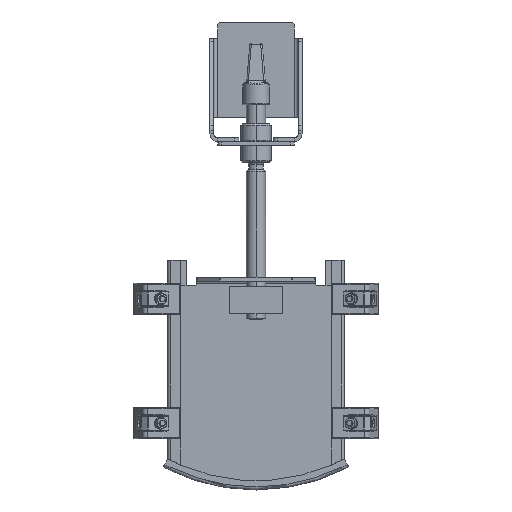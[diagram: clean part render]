
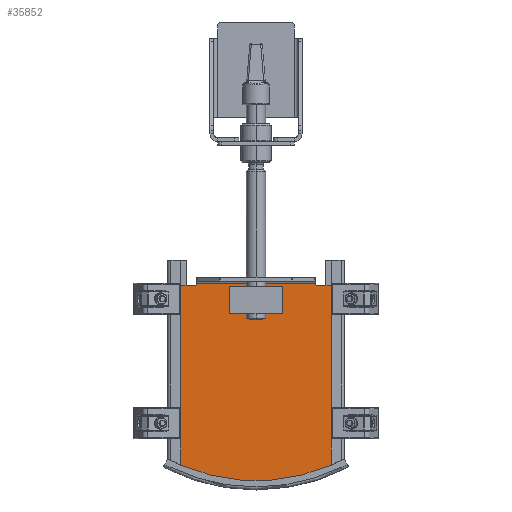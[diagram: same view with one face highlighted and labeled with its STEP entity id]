
A CAD part, top view. The second image highlights one B-rep face of the part: STEP entity #35852.
In plain terms, the highlighted planar face has unit normal (0, 0, 1).
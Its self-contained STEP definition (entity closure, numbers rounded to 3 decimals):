
#29 = DIRECTION ( 'NONE',  ( 0., -1., 0. ) ) ;
#220 = EDGE_CURVE ( 'NONE', #19083, #7626, #18681, .T. ) ;
#552 = CARTESIAN_POINT ( 'NONE',  ( 79., 255., 33. ) ) ;
#604 = VERTEX_POINT ( 'NONE', #5390 ) ;
#1266 = VECTOR ( 'NONE', #29, 1000. ) ;
#1836 = DIRECTION ( 'NONE',  ( 1., 0., 0. ) ) ;
#2104 = EDGE_CURVE ( 'NONE', #2918, #604, #26310, .T. ) ;
#2274 = CARTESIAN_POINT ( 'NONE',  ( -97.995, -12.001, 33. ) ) ;
#2918 = VERTEX_POINT ( 'NONE', #21750 ) ;
#3232 = ORIENTED_EDGE ( 'NONE', *, *, #220, .F. ) ;
#3479 = CARTESIAN_POINT ( 'NONE',  ( 79., 257., 33. ) ) ;
#3551 = VERTEX_POINT ( 'NONE', #32501 ) ;
#3735 = DIRECTION ( 'NONE',  ( 1., 0., 0. ) ) ;
#3928 = VECTOR ( 'NONE', #7741, 1000. ) ;
#4327 = FACE_BOUND ( 'NONE', #25059, .T. ) ;
#4541 = AXIS2_PLACEMENT_3D ( 'NONE', #18458, #6956, #29360 ) ;
#5390 = CARTESIAN_POINT ( 'NONE',  ( 77., 257., 33. ) ) ;
#5729 = CARTESIAN_POINT ( 'NONE',  ( -98.172, 255., 33. ) ) ;
#6323 = DIRECTION ( 'NONE',  ( 0., 0., -1. ) ) ;
#6471 = ORIENTED_EDGE ( 'NONE', *, *, #34491, .F. ) ;
#6956 = DIRECTION ( 'NONE',  ( 0., 0., 1. ) ) ;
#7518 = AXIS2_PLACEMENT_3D ( 'NONE', #19502, #16916, #8205 ) ;
#7626 = VERTEX_POINT ( 'NONE', #12492 ) ;
#7741 = DIRECTION ( 'NONE',  ( -1., 0., 0. ) ) ;
#7833 = AXIS2_PLACEMENT_3D ( 'NONE', #14870, #6323, #9715 ) ;
#7932 = VERTEX_POINT ( 'NONE', #20791 ) ;
#8205 = DIRECTION ( 'NONE',  ( 1., 0., 0. ) ) ;
#8321 = DIRECTION ( 'NONE',  ( 0., 0., -1. ) ) ;
#8735 = ORIENTED_EDGE ( 'NONE', *, *, #11793, .T. ) ;
#9321 = EDGE_CURVE ( 'NONE', #7626, #27977, #15348, .T. ) ;
#9715 = DIRECTION ( 'NONE',  ( 1., 0., 0. ) ) ;
#9811 = EDGE_LOOP ( 'NONE', ( #6471, #21044, #8735, #13893, #30688, #31223, #33234, #10053 ) ) ;
#10046 = CARTESIAN_POINT ( 'NONE',  ( -105., 257., 33. ) ) ;
#10053 = ORIENTED_EDGE ( 'NONE', *, *, #16762, .T. ) ;
#10151 = CARTESIAN_POINT ( 'NONE',  ( 97.995, 25.856, 33. ) ) ;
#10877 = EDGE_CURVE ( 'NONE', #25861, #18203, #34221, .T. ) ;
#11504 = LINE ( 'NONE', #2274, #1266 ) ;
#11761 = CARTESIAN_POINT ( 'NONE',  ( 97.995, 20.452, 33. ) ) ;
#11793 = EDGE_CURVE ( 'NONE', #24504, #604, #30264, .T. ) ;
#12395 = LINE ( 'NONE', #26644, #17013 ) ;
#12492 = CARTESIAN_POINT ( 'NONE',  ( -34., 217.5, 33. ) ) ;
#12534 = AXIS2_PLACEMENT_3D ( 'NONE', #3479, #8321, #14236 ) ;
#12834 = FACE_OUTER_BOUND ( 'NONE', #9811, .T. ) ;
#13208 = PLANE ( 'NONE',  #7518 ) ;
#13893 = ORIENTED_EDGE ( 'NONE', *, *, #2104, .F. ) ;
#14236 = DIRECTION ( 'NONE',  ( 1., 0., 0. ) ) ;
#14870 = CARTESIAN_POINT ( 'NONE',  ( -79., 257., 33. ) ) ;
#14985 = VECTOR ( 'NONE', #31274, 1000. ) ;
#15348 = LINE ( 'NONE', #24209, #19037 ) ;
#15896 = CARTESIAN_POINT ( 'NONE',  ( -34., 252.5, 33. ) ) ;
#15931 = CARTESIAN_POINT ( 'NONE',  ( 34., 252.5, 33. ) ) ;
#16547 = EDGE_CURVE ( 'NONE', #32095, #24504, #35451, .T. ) ;
#16762 = EDGE_CURVE ( 'NONE', #7932, #32059, #35230, .T. ) ;
#16916 = DIRECTION ( 'NONE',  ( 0., 0., 1. ) ) ;
#17013 = VECTOR ( 'NONE', #17613, 1000. ) ;
#17613 = DIRECTION ( 'NONE',  ( -1., 0., 0. ) ) ;
#18203 = VERTEX_POINT ( 'NONE', #36203 ) ;
#18360 = ORIENTED_EDGE ( 'NONE', *, *, #25163, .F. ) ;
#18458 = CARTESIAN_POINT ( 'NONE',  ( 0., 245., 33. ) ) ;
#18681 = LINE ( 'NONE', #15896, #31676 ) ;
#18979 = VECTOR ( 'NONE', #3735, 1000. ) ;
#19037 = VECTOR ( 'NONE', #1836, 1000. ) ;
#19083 = VERTEX_POINT ( 'NONE', #26591 ) ;
#19502 = CARTESIAN_POINT ( 'NONE',  ( -105., 25.856, 33. ) ) ;
#20791 = CARTESIAN_POINT ( 'NONE',  ( -97.995, 20.452, 33. ) ) ;
#21022 = CARTESIAN_POINT ( 'NONE',  ( 97.995, 255., 33. ) ) ;
#21044 = ORIENTED_EDGE ( 'NONE', *, *, #16547, .T. ) ;
#21750 = CARTESIAN_POINT ( 'NONE',  ( -77., 257., 33. ) ) ;
#21805 = CARTESIAN_POINT ( 'NONE',  ( 98.172, 255., 33. ) ) ;
#21943 = EDGE_CURVE ( 'NONE', #27977, #3551, #33304, .T. ) ;
#22254 = CARTESIAN_POINT ( 'NONE',  ( -79., 255., 33. ) ) ;
#22670 = EDGE_CURVE ( 'NONE', #2918, #25861, #25000, .T. ) ;
#24036 = DIRECTION ( 'NONE',  ( 0., -1., 0. ) ) ;
#24185 = LINE ( 'NONE', #10151, #30519 ) ;
#24209 = CARTESIAN_POINT ( 'NONE',  ( -34., 217.5, 33. ) ) ;
#24504 = VERTEX_POINT ( 'NONE', #552 ) ;
#25000 = CIRCLE ( 'NONE', #7833, 2. ) ;
#25059 = EDGE_LOOP ( 'NONE', ( #3232, #18360, #26656, #25627 ) ) ;
#25163 = EDGE_CURVE ( 'NONE', #3551, #19083, #12395, .T. ) ;
#25627 = ORIENTED_EDGE ( 'NONE', *, *, #9321, .F. ) ;
#25838 = CARTESIAN_POINT ( 'NONE',  ( 34., 217.5, 33. ) ) ;
#25861 = VERTEX_POINT ( 'NONE', #22254 ) ;
#26310 = LINE ( 'NONE', #10046, #18979 ) ;
#26591 = CARTESIAN_POINT ( 'NONE',  ( -34., 252.5, 33. ) ) ;
#26644 = CARTESIAN_POINT ( 'NONE',  ( -34., 252.5, 33. ) ) ;
#26656 = ORIENTED_EDGE ( 'NONE', *, *, #21943, .F. ) ;
#27182 = DIRECTION ( 'NONE',  ( 0., 1., 0. ) ) ;
#27760 = EDGE_CURVE ( 'NONE', #18203, #7932, #11504, .T. ) ;
#27865 = VECTOR ( 'NONE', #27182, 1000. ) ;
#27977 = VERTEX_POINT ( 'NONE', #25838 ) ;
#29360 = DIRECTION ( 'NONE',  ( 1., 0., 0. ) ) ;
#30264 = CIRCLE ( 'NONE', #12534, 2. ) ;
#30519 = VECTOR ( 'NONE', #33071, 1000. ) ;
#30688 = ORIENTED_EDGE ( 'NONE', *, *, #22670, .T. ) ;
#31223 = ORIENTED_EDGE ( 'NONE', *, *, #10877, .T. ) ;
#31274 = DIRECTION ( 'NONE',  ( -1., 0., 0. ) ) ;
#31676 = VECTOR ( 'NONE', #24036, 1000. ) ;
#32059 = VERTEX_POINT ( 'NONE', #11761 ) ;
#32095 = VERTEX_POINT ( 'NONE', #21022 ) ;
#32501 = CARTESIAN_POINT ( 'NONE',  ( 34., 252.5, 33. ) ) ;
#33071 = DIRECTION ( 'NONE',  ( 0., -1., 0. ) ) ;
#33234 = ORIENTED_EDGE ( 'NONE', *, *, #27760, .T. ) ;
#33304 = LINE ( 'NONE', #15931, #27865 ) ;
#34221 = LINE ( 'NONE', #5729, #14985 ) ;
#34491 = EDGE_CURVE ( 'NONE', #32095, #32059, #24185, .T. ) ;
#35230 = CIRCLE ( 'NONE', #4541, 245. ) ;
#35451 = LINE ( 'NONE', #21805, #3928 ) ;
#35852 = ADVANCED_FACE ( 'NONE', ( #12834, #4327 ), #13208, .T. ) ;
#36203 = CARTESIAN_POINT ( 'NONE',  ( -97.995, 255., 33. ) ) ;
